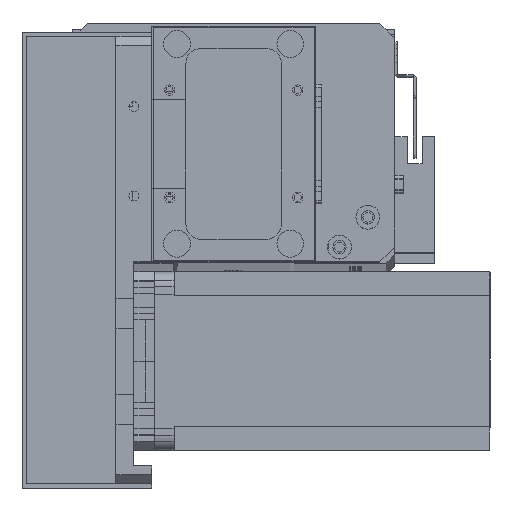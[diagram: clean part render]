
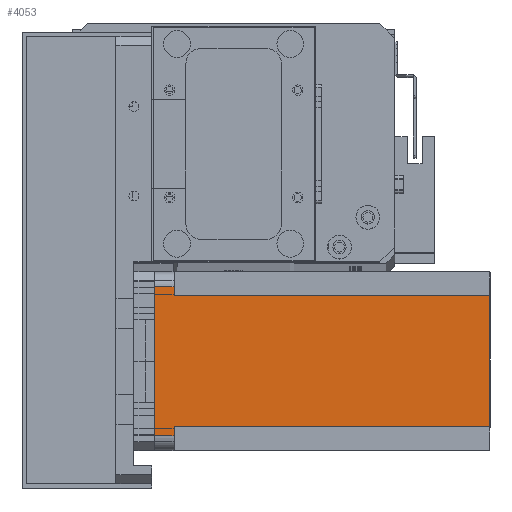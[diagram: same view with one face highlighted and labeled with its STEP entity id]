
A CAD part, top view. The second image highlights one B-rep face of the part: STEP entity #4053.
In plain terms, the highlighted planar face has unit normal (0, 0, 1) as drawn and (0, 1, 0) by its records, which use the part's own axes.
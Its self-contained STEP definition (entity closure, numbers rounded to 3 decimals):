
#575 = DIRECTION ( 'NONE',  ( 0., 1., 0. ) ) ;
#720 = EDGE_CURVE ( 'NONE', #18268, #8419, #32930, .T. ) ;
#1389 = LINE ( 'NONE', #20053, #21113 ) ;
#1419 = CARTESIAN_POINT ( 'NONE',  ( 8., 60., -6.5 ) ) ;
#1719 = VERTEX_POINT ( 'NONE', #1419 ) ;
#1808 = ORIENTED_EDGE ( 'NONE', *, *, #24213, .F. ) ;
#3181 = ORIENTED_EDGE ( 'NONE', *, *, #21100, .T. ) ;
#3686 = FACE_OUTER_BOUND ( 'NONE', #7609, .T. ) ;
#3754 = CARTESIAN_POINT ( 'NONE',  ( 52., 60., -112.5 ) ) ;
#4053 = ADVANCED_FACE ( 'NONE', ( #3686 ), #13382, .T. ) ;
#4204 = ORIENTED_EDGE ( 'NONE', *, *, #8684, .T. ) ;
#6275 = VECTOR ( 'NONE', #26784, 1000. ) ;
#6807 = VERTEX_POINT ( 'NONE', #26288 ) ;
#6865 = LINE ( 'NONE', #33107, #33500 ) ;
#6868 = VERTEX_POINT ( 'NONE', #11056 ) ;
#7087 = CARTESIAN_POINT ( 'NONE',  ( 8., 60., -6.5 ) ) ;
#7181 = CARTESIAN_POINT ( 'NONE',  ( 0., 60., -112.5 ) ) ;
#7609 = EDGE_LOOP ( 'NONE', ( #19887, #22692, #1808, #25910, #3181, #24019, #4204, #15690 ) ) ;
#8419 = VERTEX_POINT ( 'NONE', #16285 ) ;
#8684 = EDGE_CURVE ( 'NONE', #1719, #18268, #25677, .T. ) ;
#8957 = LINE ( 'NONE', #30753, #28716 ) ;
#9652 = VECTOR ( 'NONE', #12790, 1000. ) ;
#10209 = CARTESIAN_POINT ( 'NONE',  ( 8., 60., -112.5 ) ) ;
#10673 = VERTEX_POINT ( 'NONE', #14187 ) ;
#11056 = CARTESIAN_POINT ( 'NONE',  ( 52., 60., -112.5 ) ) ;
#11544 = CARTESIAN_POINT ( 'NONE',  ( 55., 60., 0. ) ) ;
#12524 = DIRECTION ( 'NONE',  ( 0., 0., -1. ) ) ;
#12790 = DIRECTION ( 'NONE',  ( 0., 0., -1. ) ) ;
#13112 = AXIS2_PLACEMENT_3D ( 'NONE', #21063, #575, #18591 ) ;
#13382 = PLANE ( 'NONE',  #13112 ) ;
#14187 = CARTESIAN_POINT ( 'NONE',  ( 55., 60., -6.5 ) ) ;
#14800 = DIRECTION ( 'NONE',  ( -1., 0., 0. ) ) ;
#14865 = EDGE_CURVE ( 'NONE', #1719, #29240, #16482, .T. ) ;
#15690 = ORIENTED_EDGE ( 'NONE', *, *, #720, .T. ) ;
#16285 = CARTESIAN_POINT ( 'NONE',  ( 5., 60., 0. ) ) ;
#16482 = LINE ( 'NONE', #10209, #9652 ) ;
#18268 = VERTEX_POINT ( 'NONE', #21165 ) ;
#18591 = DIRECTION ( 'NONE',  ( 0., 0., 1. ) ) ;
#18803 = VECTOR ( 'NONE', #14800, 1000. ) ;
#19690 = EDGE_CURVE ( 'NONE', #6868, #6807, #27131, .T. ) ;
#19887 = ORIENTED_EDGE ( 'NONE', *, *, #26416, .F. ) ;
#20053 = CARTESIAN_POINT ( 'NONE',  ( 52., 60., -6.5 ) ) ;
#20447 = DIRECTION ( 'NONE',  ( -1., 0., 0. ) ) ;
#21063 = CARTESIAN_POINT ( 'NONE',  ( 0., 60., -112.5 ) ) ;
#21100 = EDGE_CURVE ( 'NONE', #6868, #29240, #24522, .T. ) ;
#21113 = VECTOR ( 'NONE', #22650, 1000. ) ;
#21165 = CARTESIAN_POINT ( 'NONE',  ( 5., 60., -6.5 ) ) ;
#22650 = DIRECTION ( 'NONE',  ( 1., 0., 0. ) ) ;
#22692 = ORIENTED_EDGE ( 'NONE', *, *, #26972, .T. ) ;
#24019 = ORIENTED_EDGE ( 'NONE', *, *, #14865, .F. ) ;
#24213 = EDGE_CURVE ( 'NONE', #6807, #10673, #1389, .T. ) ;
#24522 = LINE ( 'NONE', #7181, #25340 ) ;
#25220 = DIRECTION ( 'NONE',  ( -1., 0., 0. ) ) ;
#25340 = VECTOR ( 'NONE', #25220, 1000. ) ;
#25677 = LINE ( 'NONE', #7087, #18803 ) ;
#25910 = ORIENTED_EDGE ( 'NONE', *, *, #19690, .F. ) ;
#26288 = CARTESIAN_POINT ( 'NONE',  ( 52., 60., -6.5 ) ) ;
#26416 = EDGE_CURVE ( 'NONE', #32615, #8419, #8957, .T. ) ;
#26472 = CARTESIAN_POINT ( 'NONE',  ( 8., 60., -112.5 ) ) ;
#26784 = DIRECTION ( 'NONE',  ( 0., 0., 1. ) ) ;
#26972 = EDGE_CURVE ( 'NONE', #32615, #10673, #6865, .T. ) ;
#27131 = LINE ( 'NONE', #3754, #33224 ) ;
#28716 = VECTOR ( 'NONE', #20447, 1000. ) ;
#29240 = VERTEX_POINT ( 'NONE', #26472 ) ;
#29294 = CARTESIAN_POINT ( 'NONE',  ( 5., 60., -112.5 ) ) ;
#30753 = CARTESIAN_POINT ( 'NONE',  ( 0., 60., 0. ) ) ;
#32426 = DIRECTION ( 'NONE',  ( 0., 0., 1. ) ) ;
#32615 = VERTEX_POINT ( 'NONE', #11544 ) ;
#32930 = LINE ( 'NONE', #29294, #6275 ) ;
#33107 = CARTESIAN_POINT ( 'NONE',  ( 55., 60., -112.5 ) ) ;
#33224 = VECTOR ( 'NONE', #32426, 1000. ) ;
#33500 = VECTOR ( 'NONE', #12524, 1000. ) ;
